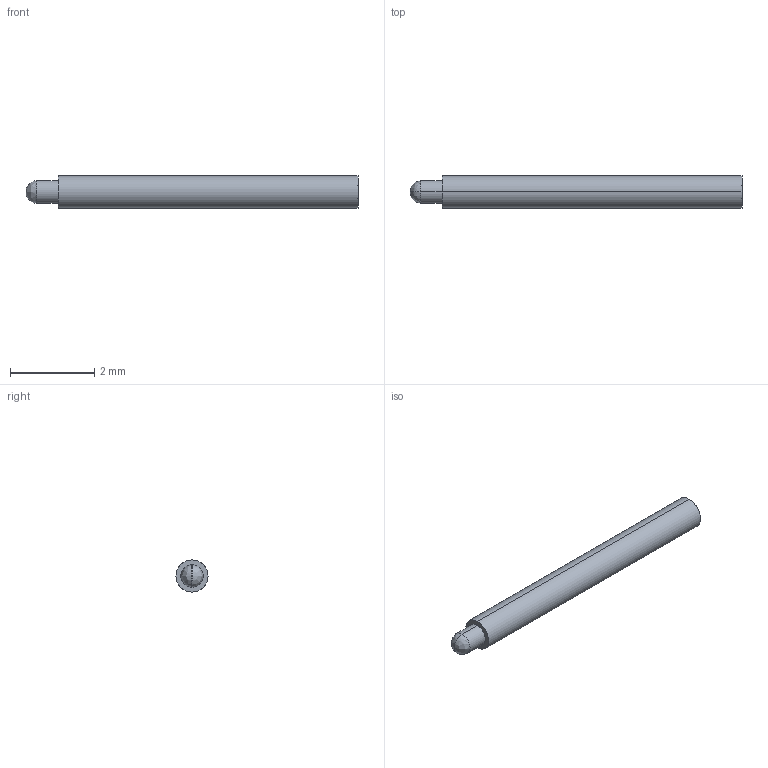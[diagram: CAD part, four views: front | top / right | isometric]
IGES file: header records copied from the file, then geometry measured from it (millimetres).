
Start section: SolidWorks IGES file using analytic representation for surfaces
Global section: file name: O:\PYLON\IGES FILES\A-A-S\A-A-S-R.IGS; native system: SolidWorks 2015; preprocessor: SolidWorks 2015; author: mrumschlag; date: 171114.110841; units: inch
Bounding box: 7.87 x 0.76 x 0.76 mm (x, y, z)
Surface area: 21.2 mm2 (no closed solid volume)
Topology: 0 solids, 0 shells, 12 faces, 120 edges, 120 vertices
Faces by surface type: revolution 6, bspline 6
